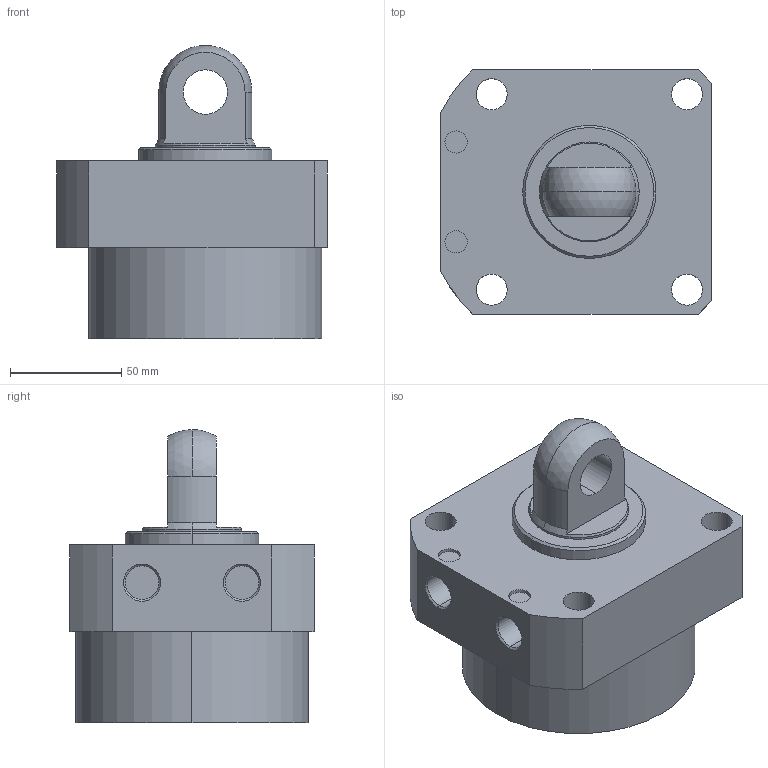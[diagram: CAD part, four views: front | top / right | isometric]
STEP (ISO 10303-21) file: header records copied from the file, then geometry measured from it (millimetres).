
FILE_DESCRIPTION (( 'STEP AP203' ), '1' );
FILE_NAME ('CLLR-105CP-020.STEP', '2019-12-19T02:02:04', ( '' ), ( '' ), 'SwSTEP 2.0', 'SolidWorks 2015', '' );
FILE_SCHEMA (( 'CONFIG_CONTROL_DESIGN' ));
Length unit declared in the file: millimetre
Products named in the file (1): CLLR-105CP-020
Bounding box: 122 x 110 x 132 mm (x, y, z)
Volume: 881221.4 mm3; surface area: 71203.6 mm2
Topology: 1 solids, 1 shells, 57 faces, 135 edges, 87 vertices
Faces by surface type: cylinder 29, plane 18, cone 8, sphere 2
Entity records: 1770 total; most frequent: DIRECTION 319, CARTESIAN_POINT 292, ORIENTED_EDGE 270, EDGE_CURVE 135, AXIS2_PLACEMENT_3D 130, VERTEX_POINT 87, EDGE_LOOP 74, CIRCLE 72
